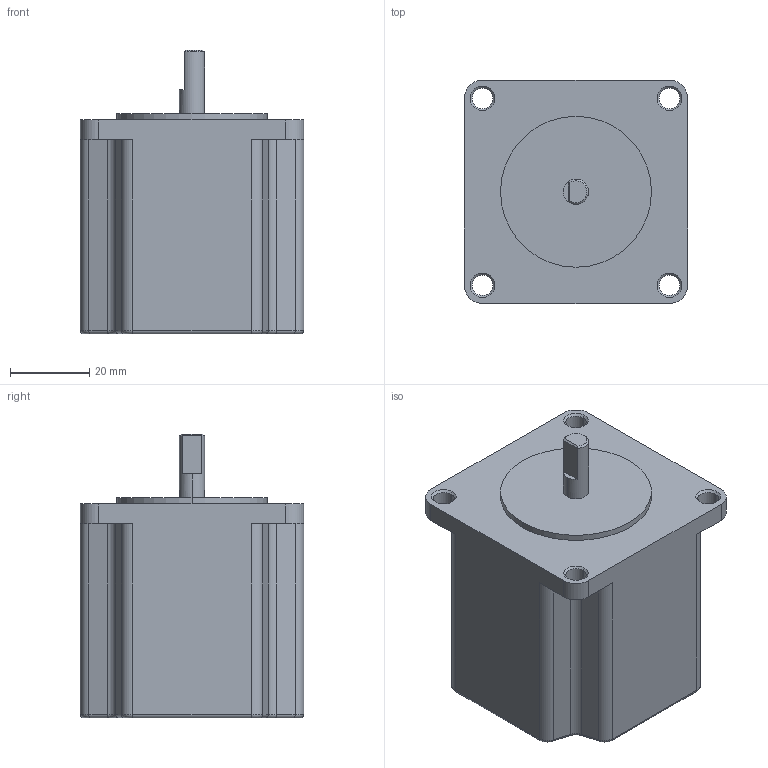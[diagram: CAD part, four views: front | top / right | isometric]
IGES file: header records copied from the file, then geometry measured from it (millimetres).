
Global section: file name: No Iges File Name specified; native system: Autodesk Inventor 2011; preprocessor: AutoDesk Inventor Iges Exporter R2011; author: Ja; date: 20130907.235531; units: millimetre
Bounding box: 56.4 x 56.4 x 71.6 mm (x, y, z)
Volume: 154677.9 mm3; surface area: 18014.7 mm2
Topology: 1 solids, 1 shells, 97 faces, 232 edges, 140 vertices
Faces by surface type: cylinder 28, plane 23, revolution 20, bspline 13, torus 12, cone 1
